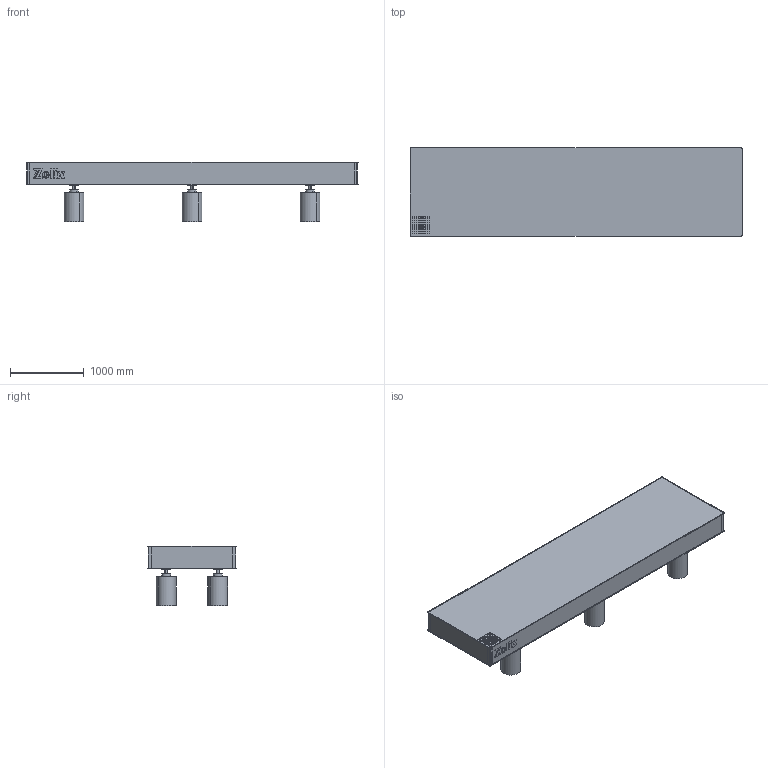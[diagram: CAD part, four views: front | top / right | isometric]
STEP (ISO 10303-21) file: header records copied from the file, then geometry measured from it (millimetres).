
FILE_DESCRIPTION (( 'STEP AP203' ), '1' );
FILE_NAME ('ZDR45-12(AP203).STEP', '2024-04-12T03:36:06', ( 'Windows 蚚誧' ), ( 'Organization' ), 'SwSTEP 2.0', 'SolidWorks 2020', '' );
FILE_SCHEMA (( 'CONFIG_CONTROL_DESIGN' ));
Length unit declared in the file: millimetre
Products named in the file (1): ZDR45-12(AP203)
Bounding box: 4500 x 1200 x 800 mm (x, y, z)
Volume: 198636808.3 mm3; surface area: 31680919.5 mm2
Topology: 54 solids, 54 shells, 700 faces, 1776 edges, 1184 vertices
Faces by surface type: plane 436, cylinder 264
Entity records: 21519 total; most frequent: DIRECTION 3706, CARTESIAN_POINT 3661, ORIENTED_EDGE 3552, EDGE_CURVE 1776, LINE 1248, VECTOR 1248, AXIS2_PLACEMENT_3D 1229, VERTEX_POINT 1184
